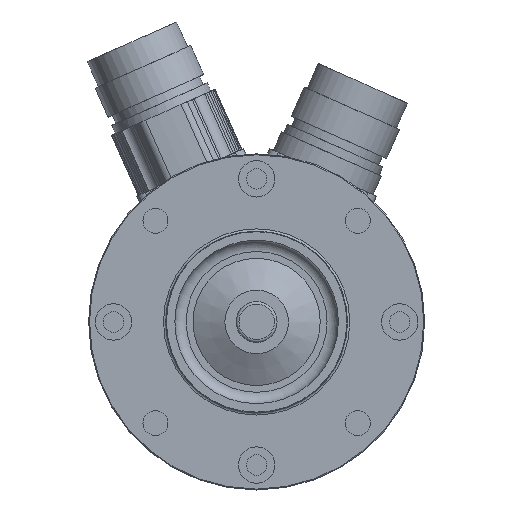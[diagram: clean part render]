
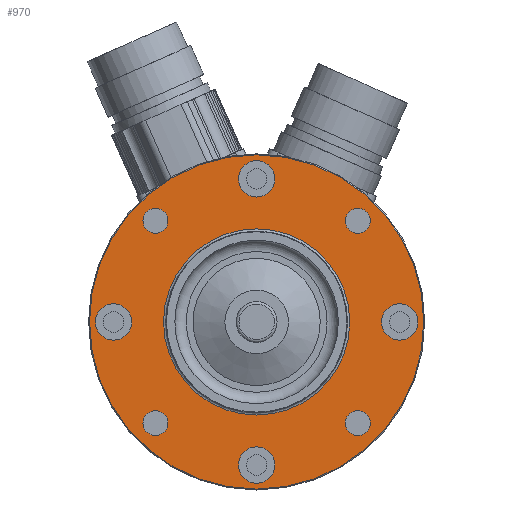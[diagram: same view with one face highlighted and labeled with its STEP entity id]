
A CAD part, front view. The second image highlights one B-rep face of the part: STEP entity #970.
In plain terms, the highlighted planar face has unit normal (0, -1, 0).
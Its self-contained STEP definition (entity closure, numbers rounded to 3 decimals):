
#379=PLANE('',#6112);
#498=FACE_BOUND('',#1859,.T.);
#499=FACE_BOUND('',#1860,.T.);
#500=FACE_BOUND('',#1861,.T.);
#501=FACE_BOUND('',#1862,.T.);
#502=FACE_BOUND('',#1863,.T.);
#503=FACE_BOUND('',#1864,.T.);
#504=FACE_BOUND('',#1865,.T.);
#505=FACE_BOUND('',#1866,.T.);
#506=FACE_BOUND('',#1868,.T.);
#970=ADVANCED_FACE('',(#498,#499,#500,#501,#502,#503,#504,#505,#1583,#506),
#379,.T.);
#1583=FACE_OUTER_BOUND('',#1867,.T.);
#1859=EDGE_LOOP('',(#3102));
#1860=EDGE_LOOP('',(#3103));
#1861=EDGE_LOOP('',(#3104));
#1862=EDGE_LOOP('',(#3105));
#1863=EDGE_LOOP('',(#3106));
#1864=EDGE_LOOP('',(#3107));
#1865=EDGE_LOOP('',(#3108));
#1866=EDGE_LOOP('',(#3109));
#1867=EDGE_LOOP('',(#3110));
#1868=EDGE_LOOP('',(#3111));
#2594=CIRCLE('',#6102,4.);
#2595=CIRCLE('',#6103,4.);
#2596=CIRCLE('',#6104,4.);
#2597=CIRCLE('',#6105,4.);
#2598=CIRCLE('',#6106,2.75);
#2599=CIRCLE('',#6107,2.75);
#2600=CIRCLE('',#6108,2.75);
#2601=CIRCLE('',#6109,2.75);
#2602=CIRCLE('',#6110,36.8);
#2603=CIRCLE('',#6111,20.5);
#3102=ORIENTED_EDGE('',*,*,#5045,.T.);
#3103=ORIENTED_EDGE('',*,*,#5046,.T.);
#3104=ORIENTED_EDGE('',*,*,#5047,.T.);
#3105=ORIENTED_EDGE('',*,*,#5048,.T.);
#3106=ORIENTED_EDGE('',*,*,#5049,.T.);
#3107=ORIENTED_EDGE('',*,*,#5050,.T.);
#3108=ORIENTED_EDGE('',*,*,#5051,.T.);
#3109=ORIENTED_EDGE('',*,*,#5052,.T.);
#3110=ORIENTED_EDGE('',*,*,#5053,.T.);
#3111=ORIENTED_EDGE('',*,*,#5054,.T.);
#4474=VERTEX_POINT('',#9058);
#4475=VERTEX_POINT('',#9060);
#4476=VERTEX_POINT('',#9062);
#4477=VERTEX_POINT('',#9064);
#4478=VERTEX_POINT('',#9066);
#4479=VERTEX_POINT('',#9068);
#4480=VERTEX_POINT('',#9070);
#4481=VERTEX_POINT('',#9072);
#4482=VERTEX_POINT('',#9074);
#4483=VERTEX_POINT('',#9076);
#5045=EDGE_CURVE('',#4474,#4474,#2594,.T.);
#5046=EDGE_CURVE('',#4475,#4475,#2595,.T.);
#5047=EDGE_CURVE('',#4476,#4476,#2596,.T.);
#5048=EDGE_CURVE('',#4477,#4477,#2597,.T.);
#5049=EDGE_CURVE('',#4478,#4478,#2598,.T.);
#5050=EDGE_CURVE('',#4479,#4479,#2599,.T.);
#5051=EDGE_CURVE('',#4480,#4480,#2600,.T.);
#5052=EDGE_CURVE('',#4481,#4481,#2601,.T.);
#5053=EDGE_CURVE('',#4482,#4482,#2602,.T.);
#5054=EDGE_CURVE('',#4483,#4483,#2603,.T.);
#6102=AXIS2_PLACEMENT_3D('',#9057,#7048,#7049);
#6103=AXIS2_PLACEMENT_3D('',#9059,#7050,#7051);
#6104=AXIS2_PLACEMENT_3D('',#9061,#7052,#7053);
#6105=AXIS2_PLACEMENT_3D('',#9063,#7054,#7055);
#6106=AXIS2_PLACEMENT_3D('',#9065,#7056,#7057);
#6107=AXIS2_PLACEMENT_3D('',#9067,#7058,#7059);
#6108=AXIS2_PLACEMENT_3D('',#9069,#7060,#7061);
#6109=AXIS2_PLACEMENT_3D('',#9071,#7062,#7063);
#6110=AXIS2_PLACEMENT_3D('',#9073,#7064,#7065);
#6111=AXIS2_PLACEMENT_3D('',#9075,#7066,#7067);
#6112=AXIS2_PLACEMENT_3D('',#9077,#7068,#7069);
#7048=DIRECTION('',(0.,1.,0.));
#7049=DIRECTION('',(-1.,0.,0.));
#7050=DIRECTION('',(0.,1.,0.));
#7051=DIRECTION('',(0.,0.,-1.));
#7052=DIRECTION('',(0.,1.,0.));
#7053=DIRECTION('',(1.,0.,0.));
#7054=DIRECTION('',(0.,1.,0.));
#7055=DIRECTION('',(0.,0.,1.));
#7056=DIRECTION('',(0.,1.,0.));
#7057=DIRECTION('',(-1.,0.,0.));
#7058=DIRECTION('',(0.,1.,0.));
#7059=DIRECTION('',(0.,0.,-1.));
#7060=DIRECTION('',(0.,1.,0.));
#7061=DIRECTION('',(1.,0.,0.));
#7062=DIRECTION('',(0.,1.,0.));
#7063=DIRECTION('',(0.,0.,1.));
#7064=DIRECTION('',(0.,-1.,0.));
#7065=DIRECTION('',(0.,0.,-1.));
#7066=DIRECTION('',(0.,1.,0.));
#7067=DIRECTION('',(0.,0.,-1.));
#7068=DIRECTION('',(0.,-1.,0.));
#7069=DIRECTION('',(0.,0.,-1.));
#9057=CARTESIAN_POINT('',(-31.5,0.,0.));
#9058=CARTESIAN_POINT('',(-35.5,0.,0.));
#9059=CARTESIAN_POINT('',(0.,0.,-31.5));
#9060=CARTESIAN_POINT('',(0.,0.,-35.5));
#9061=CARTESIAN_POINT('',(31.5,0.,0.));
#9062=CARTESIAN_POINT('',(35.5,0.,0.));
#9063=CARTESIAN_POINT('',(0.,0.,31.5));
#9064=CARTESIAN_POINT('',(0.,0.,35.5));
#9065=CARTESIAN_POINT('',(-22.274,0.,-22.274));
#9066=CARTESIAN_POINT('',(-25.024,0.,-22.274));
#9067=CARTESIAN_POINT('',(22.274,0.,-22.274));
#9068=CARTESIAN_POINT('',(22.274,0.,-25.024));
#9069=CARTESIAN_POINT('',(22.274,0.,22.274));
#9070=CARTESIAN_POINT('',(25.024,0.,22.274));
#9071=CARTESIAN_POINT('',(-22.274,0.,22.274));
#9072=CARTESIAN_POINT('',(-22.274,0.,25.024));
#9073=CARTESIAN_POINT('',(0.,0.,0.));
#9074=CARTESIAN_POINT('',(0.,0.,-36.8));
#9075=CARTESIAN_POINT('',(0.,0.,0.));
#9076=CARTESIAN_POINT('',(0.,0.,-20.5));
#9077=CARTESIAN_POINT('',(0.,0.,0.));
